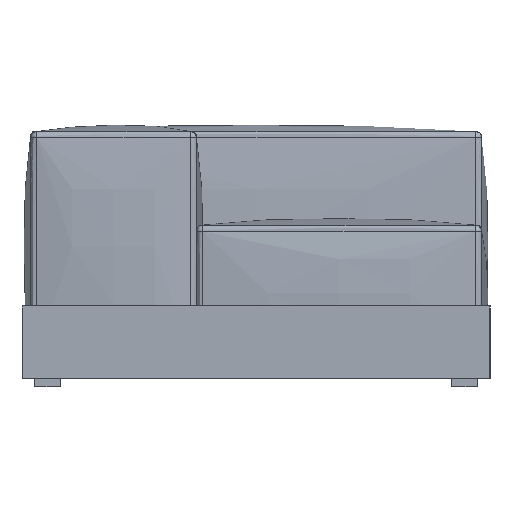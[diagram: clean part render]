
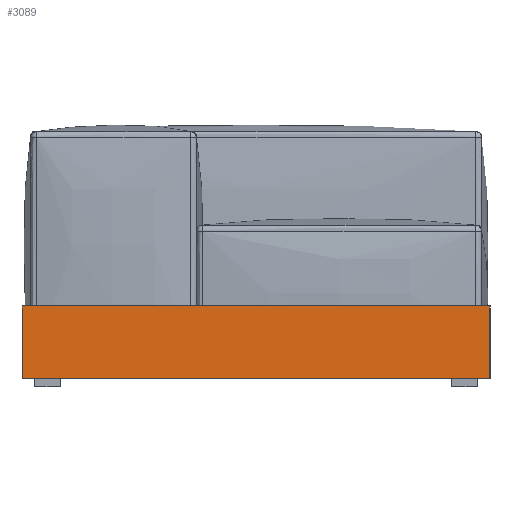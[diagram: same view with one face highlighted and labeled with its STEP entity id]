
A CAD part, left-side view. The second image highlights one B-rep face of the part: STEP entity #3089.
In plain terms, the highlighted planar face has unit normal (-1, 0, 0).
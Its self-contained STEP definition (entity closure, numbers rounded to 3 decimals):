
#108=PLANE('',#3447);
#232=LINE('',#13573,#440);
#233=LINE('',#13575,#441);
#234=LINE('',#13577,#442);
#235=LINE('',#13578,#443);
#440=VECTOR('',#3972,10.);
#441=VECTOR('',#3973,10.);
#442=VECTOR('',#3974,10.);
#443=VECTOR('',#3975,10.);
#933=FACE_OUTER_BOUND('',#1159,.T.);
#1159=EDGE_LOOP('',(#2571,#2572,#2573,#2574));
#1499=VERTEX_POINT('',#13571);
#1500=VERTEX_POINT('',#13572);
#1501=VERTEX_POINT('',#13574);
#1502=VERTEX_POINT('',#13576);
#1875=EDGE_CURVE('',#1499,#1500,#232,.T.);
#1876=EDGE_CURVE('',#1499,#1501,#233,.T.);
#1877=EDGE_CURVE('',#1502,#1501,#234,.T.);
#1878=EDGE_CURVE('',#1500,#1502,#235,.T.);
#2571=ORIENTED_EDGE('',*,*,#1875,.F.);
#2572=ORIENTED_EDGE('',*,*,#1876,.T.);
#2573=ORIENTED_EDGE('',*,*,#1877,.F.);
#2574=ORIENTED_EDGE('',*,*,#1878,.F.);
#3089=ADVANCED_FACE('',(#933),#108,.T.);
#3447=AXIS2_PLACEMENT_3D('',#13570,#3970,#3971);
#3970=DIRECTION('center_axis',(-1.,0.,0.));
#3971=DIRECTION('ref_axis',(0.,-1.,0.));
#3972=DIRECTION('',(0.,1.,0.));
#3973=DIRECTION('',(0.,0.,1.));
#3974=DIRECTION('',(0.,-1.,0.));
#3975=DIRECTION('',(0.,0.,1.));
#13570=CARTESIAN_POINT('Origin',(-1500.,550.,0.));
#13571=CARTESIAN_POINT('',(-1500.,-550.,0.));
#13572=CARTESIAN_POINT('',(-1500.,550.,0.));
#13573=CARTESIAN_POINT('',(-1500.,-550.,0.));
#13574=CARTESIAN_POINT('',(-1500.,-550.,170.));
#13575=CARTESIAN_POINT('',(-1500.,-550.,0.));
#13576=CARTESIAN_POINT('',(-1500.,550.,170.));
#13577=CARTESIAN_POINT('',(-1500.,-550.,170.));
#13578=CARTESIAN_POINT('',(-1500.,550.,0.));
